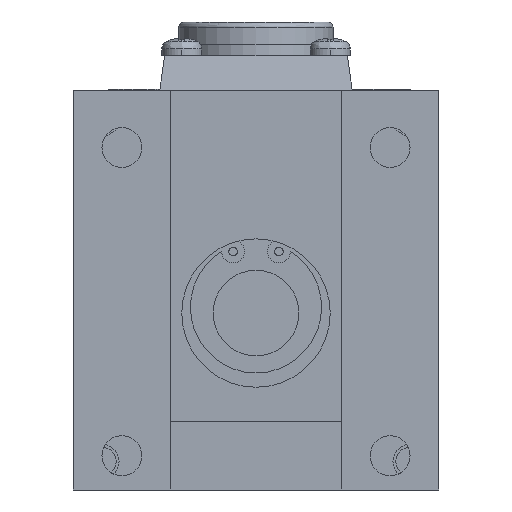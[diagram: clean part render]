
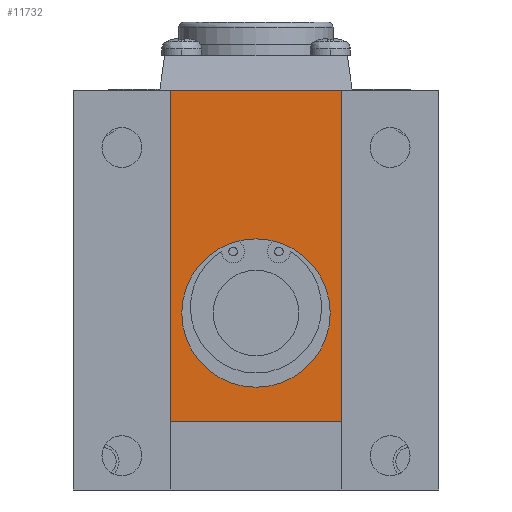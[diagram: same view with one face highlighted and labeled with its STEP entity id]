
A CAD part, front view. The second image highlights one B-rep face of the part: STEP entity #11732.
In plain terms, the highlighted planar face has unit normal (0, -1, 0).
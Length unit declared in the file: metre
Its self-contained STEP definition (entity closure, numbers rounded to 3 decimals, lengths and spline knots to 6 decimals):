
#53 = VERTEX_POINT ( 'NONE', #11686 ) ;
#220 = EDGE_CURVE ( 'NONE', #3051, #4458, #12851, .T. ) ;
#224 = DIRECTION ( 'NONE',  ( 0., -1., 0. ) ) ;
#508 = CARTESIAN_POINT ( 'NONE',  ( -0.015, 0., -0.019 ) ) ;
#570 = DIRECTION ( 'NONE',  ( -1., 0., 0. ) ) ;
#983 = ORIENTED_EDGE ( 'NONE', *, *, #9213, .F. ) ;
#1562 = DIRECTION ( 'NONE',  ( 0., 1., 0. ) ) ;
#1739 = CARTESIAN_POINT ( 'NONE',  ( 0.015, 0., -0.019 ) ) ;
#2251 = EDGE_LOOP ( 'NONE', ( #5520, #6655, #983, #6038 ) ) ;
#2841 = CIRCLE ( 'NONE', #10798, 0.013 ) ;
#3051 = VERTEX_POINT ( 'NONE', #1739 ) ;
#3195 = ORIENTED_EDGE ( 'NONE', *, *, #10089, .F. ) ;
#3200 = VERTEX_POINT ( 'NONE', #8032 ) ;
#3779 = FACE_BOUND ( 'NONE', #5961, .T. ) ;
#4044 = CARTESIAN_POINT ( 'NONE',  ( -0.015, 0., 0.039 ) ) ;
#4260 = ORIENTED_EDGE ( 'NONE', *, *, #5451, .F. ) ;
#4432 = DIRECTION ( 'NONE',  ( 0., 0., 1. ) ) ;
#4458 = VERTEX_POINT ( 'NONE', #7415 ) ;
#4497 = VECTOR ( 'NONE', #570, 1. ) ;
#4962 = DIRECTION ( 'NONE',  ( 0., -1., 0. ) ) ;
#4993 = AXIS2_PLACEMENT_3D ( 'NONE', #508, #1562, #8970 ) ;
#5024 = DIRECTION ( 'NONE',  ( 0., 0., -1. ) ) ;
#5161 = CARTESIAN_POINT ( 'NONE',  ( -0.015, 0., 0.01 ) ) ;
#5451 = EDGE_CURVE ( 'NONE', #10272, #3200, #7568, .T. ) ;
#5520 = ORIENTED_EDGE ( 'NONE', *, *, #220, .F. ) ;
#5604 = VECTOR ( 'NONE', #4432, 1. ) ;
#5961 = EDGE_LOOP ( 'NONE', ( #4260, #3195 ) ) ;
#5982 = VECTOR ( 'NONE', #5024, 1. ) ;
#6038 = ORIENTED_EDGE ( 'NONE', *, *, #11275, .F. ) ;
#6510 = CARTESIAN_POINT ( 'NONE',  ( 0., 0., 0. ) ) ;
#6655 = ORIENTED_EDGE ( 'NONE', *, *, #8790, .F. ) ;
#6822 = PLANE ( 'NONE',  #4993 ) ;
#6878 = CARTESIAN_POINT ( 'NONE',  ( -0.017, 0., -0.019 ) ) ;
#7234 = CARTESIAN_POINT ( 'NONE',  ( 0., 0., 0.039 ) ) ;
#7415 = CARTESIAN_POINT ( 'NONE',  ( -0.015, 0., -0.019 ) ) ;
#7568 = CIRCLE ( 'NONE', #9399, 0.013 ) ;
#7588 = DIRECTION ( 'NONE',  ( 0., 0., -1. ) ) ;
#8032 = CARTESIAN_POINT ( 'NONE',  ( 0., 0., 0.013 ) ) ;
#8216 = DIRECTION ( 'NONE',  ( 1., 0., 0. ) ) ;
#8423 = LINE ( 'NONE', #5161, #5604 ) ;
#8790 = EDGE_CURVE ( 'NONE', #53, #3051, #11577, .T. ) ;
#8970 = DIRECTION ( 'NONE',  ( 0., 0., 1. ) ) ;
#9213 = EDGE_CURVE ( 'NONE', #11936, #53, #11087, .T. ) ;
#9399 = AXIS2_PLACEMENT_3D ( 'NONE', #6510, #224, #7588 ) ;
#10089 = EDGE_CURVE ( 'NONE', #3200, #10272, #2841, .T. ) ;
#10272 = VERTEX_POINT ( 'NONE', #10442 ) ;
#10442 = CARTESIAN_POINT ( 'NONE',  ( 0., 0., -0.013 ) ) ;
#10798 = AXIS2_PLACEMENT_3D ( 'NONE', #11262, #4962, #12302 ) ;
#11087 = LINE ( 'NONE', #7234, #13200 ) ;
#11262 = CARTESIAN_POINT ( 'NONE',  ( 0., 0., 0. ) ) ;
#11275 = EDGE_CURVE ( 'NONE', #4458, #11936, #8423, .T. ) ;
#11278 = CARTESIAN_POINT ( 'NONE',  ( 0.015, 0., 0.01 ) ) ;
#11577 = LINE ( 'NONE', #11278, #5982 ) ;
#11686 = CARTESIAN_POINT ( 'NONE',  ( 0.015, 0., 0.039 ) ) ;
#11732 = ADVANCED_FACE ( 'NONE', ( #3779, #12177 ), #6822, .F. ) ;
#11936 = VERTEX_POINT ( 'NONE', #4044 ) ;
#12177 = FACE_OUTER_BOUND ( 'NONE', #2251, .T. ) ;
#12302 = DIRECTION ( 'NONE',  ( 0., 0., -1. ) ) ;
#12851 = LINE ( 'NONE', #6878, #4497 ) ;
#13200 = VECTOR ( 'NONE', #8216, 1. ) ;
